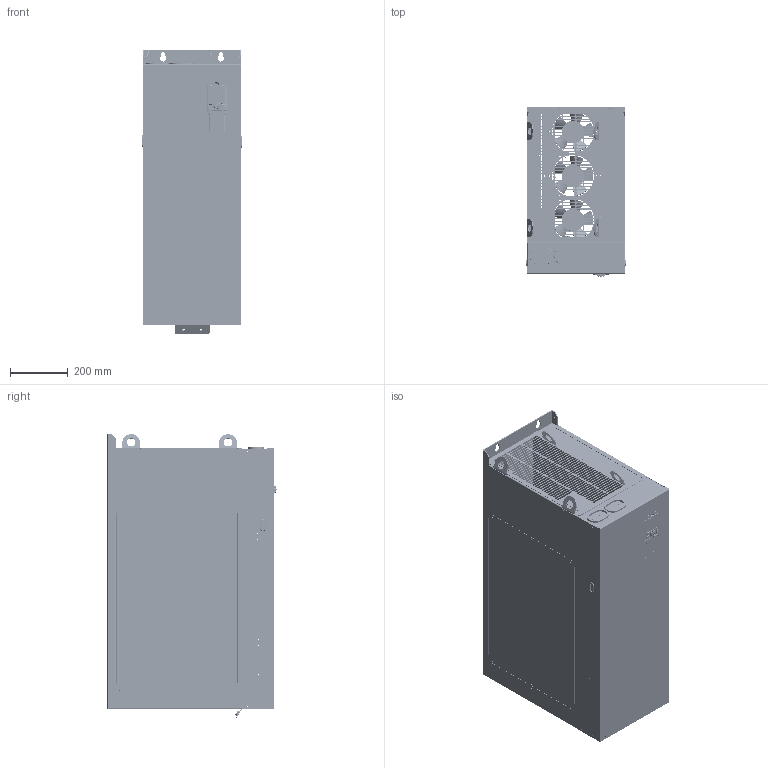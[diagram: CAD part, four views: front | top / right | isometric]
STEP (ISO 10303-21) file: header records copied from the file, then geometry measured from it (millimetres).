
FILE_DESCRIPTION((''),'2;1');
FILE_NAME('00-A8-250_ASM_272_ASM','2024-08-14T',('Administrator'),(''),'PRO/ENGINEER BY PARAMETRIC TECHNOLOGY CORPORATION, 2010280','PRO/ENGINEER BY PARAMETRIC TECHNOLOGY CORPORATION, 2010280','');
FILE_SCHEMA(('AUTOMOTIVE_DESIGN { 1 0 10303 214 1 1 1 1 }'));
Products named in the file (124): A8-250-01-01-01_136; NZ-M8-ZC_48; S-M4-ZC_52; A8-250-01-01-01_ASM_119_ASM; A8-250-01-01-03_171; SO-3R5M3-26-ZC_52; BSO-M3-10-ZC_52; BSO-3R5M3-5-ZC_52; A8-250-01-01-03_ASM_148_ASM; A8-250-01-01-04_190; FH-M6-12-ZC_40; S-M6-ZC_52; BSO-3R5M3-10-ZC_52; A8-250-01-01-04_ASM_167_ASM; A8-250-01-01-05_58; A8-250-01-01-05_ASM_68_ASM; A8-250-01-01-06_61; A8-250-01-01-06_ASM_73_ASM; A8-250-01-01-07_61; A8-250-01-01-07_ASM_67_ASM; A8-250-01-01-08_50; A8-250-01-01-08_ASM_56_ASM; A8-250-01-01-09_56; A8-250-01-01-09_ASM_61_ASM; A8-250-01-01-10_50; A8-250-01-01-10_ASM_54_ASM; A8-250-01-01-11_46; A8-250-01-01-11_ASM_54_ASM; A8-250-01-01-12_50; A8-250-01-01-12_ASM_59_ASM; A8-315-01-01-14_12; A8-315-01-01-14_ASM_14_ASM; GB12617-90_4X8_30-R0_10_35; GB12617-90_4X6-22_3_2_3; A8-250-01-01_ASM_235_ASM; A8-250-01-02_54; A8-250-01-02_ASM_61_ASM; A8-250-01-03-01_70; TPS-4-8-ZC_50; A8-250-01-03-01_ASM_75_ASM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
Assembly tree (403 placements, depth 6):
  00-A8-250_ASM_272_ASM
    A8-250-01_ASM_201_ASM
      A8-250-01-01_ASM_235_ASM
        A8-250-01-01-01_ASM_119_ASM
          A8-250-01-01-01_136
          NZ-M8-ZC_48  x4
          S-M4-ZC_52  x3
        A8-250-01-01-03_ASM_148_ASM
          A8-250-01-01-03_171
          SO-3R5M3-26-ZC_52  x10
          BSO-M3-10-ZC_52  x7
          S-M4-ZC_52  x30
          NZ-M8-ZC_48  x4
          BSO-3R5M3-5-ZC_52  x4
        A8-250-01-01-04_ASM_167_ASM
          A8-250-01-01-04_190
          S-M4-ZC_52  x7
          FH-M6-12-ZC_40  x8
          S-M6-ZC_52  x4
          BSO-3R5M3-10-ZC_52  x4
        A8-250-01-01-05_ASM_68_ASM
          A8-250-01-01-05_58
        A8-250-01-01-06_ASM_73_ASM
          A8-250-01-01-06_61
          S-M4-ZC_52
        A8-250-01-01-07_ASM_67_ASM
          A8-250-01-01-07_61
          S-M4-ZC_52  x2
        A8-250-01-01-08_ASM_56_ASM
          A8-250-01-01-08_50
        A8-250-01-01-09_ASM_61_ASM
          A8-250-01-01-09_56
        A8-250-01-01-10_ASM_54_ASM
          A8-250-01-01-10_50
        A8-250-01-01-11_ASM_54_ASM  x15
          A8-250-01-01-11_46
          S-M4-ZC_52
        A8-250-01-01-12_ASM_59_ASM
          A8-250-01-01-12_50
          S-M4-ZC_52  x3
        A8-315-01-01-14_ASM_14_ASM  x4
          A8-315-01-01-14_12
        GB12617-90_4X8_30-R0_10_35  x107
        GB12617-90_4X6-22_3_2_3  x10
      A8-250-01-02_ASM_61_ASM
        A8-250-01-02_54
        S-M4-ZC_52  x6
      A8-250-01-03_ASM_10_ASM
        A8-250-01-03-01_ASM_75_ASM
          A8-250-01-03-01_70
          TPS-4-8-ZC_50  x2
      A8-250-01-04_ASM_66_ASM
        A8-250-01-04_61
        TPS-4-8-ZC_50  x2
      A8-250-01-05_ASM_62_ASM
        A8-250-01-05_64
        TPS-4-8-ZC_50  x2
      A8-250-01-06_ASM_61_ASM
        A8-250-01-06_60
      A8-250-01-07_ASM_68_ASM
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Bounding box: 347 x 584.8 x 981 mm (x, y, z)
Volume: 7009629.4 mm3; surface area: 7293812.2 mm2
Topology: 390 solids, 407 shells, 47440 faces, 134703 edges, 91949 vertices
Faces by surface type: plane 40153, cylinder 4577, cone 2053, torus 382, bspline 229, sphere 46
Entity records: 558883 total; most frequent: CARTESIAN_POINT 93600, ORIENTED_EDGE 72610, DIRECTION 71913, EDGE_CURVE 36311, VECTOR 30537, LINE 30537, PRESENTATION_STYLE_ASSIGNMENT 24516, STYLED_ITEM 24359
